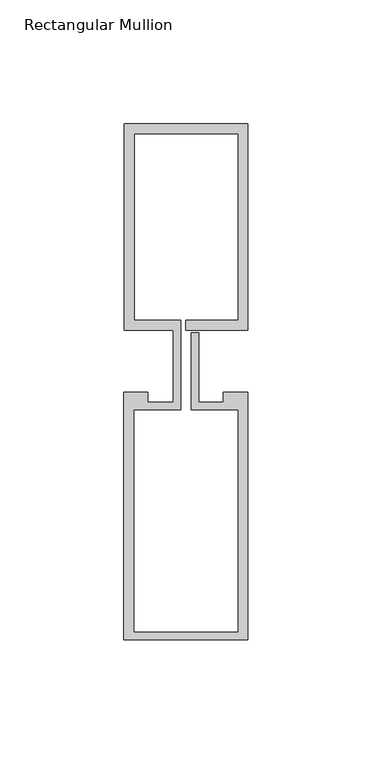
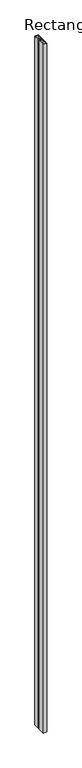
"""IFC4 building model written with IfcOpenShell, lengths in millimetres: member geometry, Rectangular Mullion : Reynaers_CW-50_Mullion-Transom_Vertical_83.5mm_Facecap-02D."""

from ifc_helpers import new_model, si_unit, frame, origin, place, context, project, spatial, polyline, outline, extrude, source, transform, mapped, element, save


def rectangular_mullion_f35b7cc4(model_context):
    return source(origin(), model_context, "Body", "SweptSolid", [
        extrude(outline(polyline([(-24.8004059, 96.0), (25.1995941, 96.0), (25.1995941, 12.5), (0.0, 12.5), (0.0, 16.5), (21.1995941, 16.5), (21.1995941, 92.0), (-20.8004059, 92.0), (-20.8004059, 16.5), (-1.9004059, 16.5), (-1.9004059, -19.5), (-20.994845, -19.5), (-20.994845, -109.4191338), (21.1995941, -109.4191338), (21.1995941, -19.5), (2.2995941, -19.5), (2.2995941, 11.5), (5.2995941, 11.5), (5.2995941, -16.5), (15.2996495, -16.5), (15.2996495, -12.5), (25.1995941, -12.5), (25.1995941, -112.5), (-24.994845, -112.5), (-24.994845, -12.5), (-15.2996495, -12.5), (-15.2996495, -16.5), (-4.9004059, -16.5), (-4.9004059, 12.5), (-24.8004059, 12.5), (-24.8004059, 96.0)])), frame((0.0, 0.0, -10400.0), z_axis=(0.0, 0.0, 1.0), x_axis=(1.0, 0.0, 0.0)), (0.0, 0.0, 1.0), 10400.0),
    ])


if __name__ == "__main__":
    model = new_model("IFC4")
    model_context = context("Model", 3, world=origin())
    ifc_project = project(units=[si_unit("LENGTHUNIT", "METRE", prefix="MILLI")], contexts=[model_context])
    site = spatial("IfcSite", under=ifc_project)
    building = spatial("IfcBuilding", under=site)
    placement = place(None, origin())
    rectangular_mullion_shape = rectangular_mullion_f35b7cc4(model_context)
    element("IfcMember", 1, ObjectType="Rectangular Mullion : Reynaers_CW-50_Mullion-Transom_Vertical_83.5mm_Facecap-02D", at=placement, inside=building, context=model_context, shape_type="MappedRepresentation", body=[
        mapped(rectangular_mullion_shape, transform((0.0, 0.0, 0.0), x_axis=(1.0, 0.0, 0.0), y_axis=(0.0, 1.0, 0.0), z_axis=(0.0, 0.0, 1.0))),
    ])
    save(model, "model.ifc")
